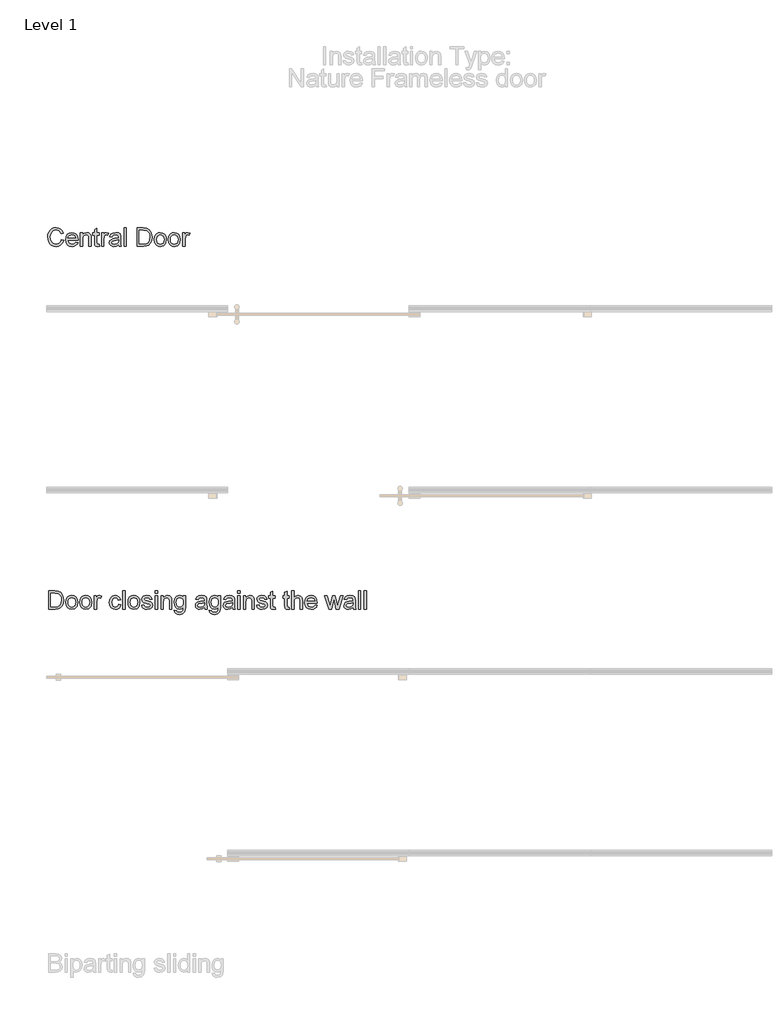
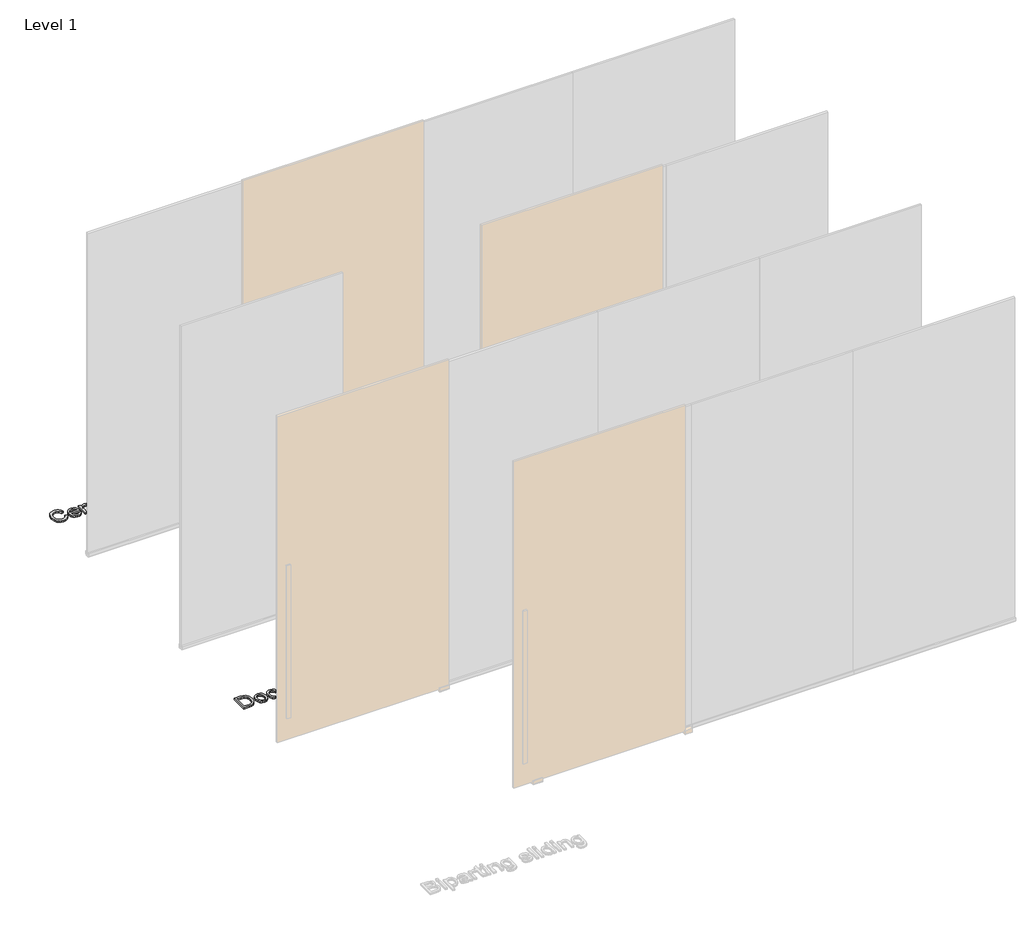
# One storey, part 2 of 3: 2 proxies.
"""IFC4 building model written with IfcOpenShell, lengths in millimetres."""

from ifc_helpers import new_model, si_unit, origin, origin_with_axes, place, context, project, spatial, polyline, outline, extrude, element, save

model = new_model("IFC4")

# Units and contexts
model_context = context("Model", 3, world=origin())
ifc_project = project(units=[si_unit("LENGTHUNIT", "METRE", prefix="MILLI")], contexts=[model_context])

# Site, building, storey
site = spatial("IfcSite", under=ifc_project)
building = spatial("IfcBuilding", under=site)
storey = spatial("IfcBuildingStorey", under=building, Name="Level 1", Elevation=0.0)

# Proxies
placement = place(None, origin())
element("IfcBuildingElementProxy", 1, Name="100mm Arial", ObjectType="100mm Arial", at=placement, inside=storey, context=model_context, shape_type="SweptSolid", body=[
    extrude(outline(polyline([(-5913.6878714, 2258.4362779), (-5901.1308326, 2255.1989163), (-5906.924974, 2240.56641), (-5916.0177907, 2229.8763723), (-5927.9616928, 2223.3372699), (-5942.3090906, 2221.157569), (-5956.8741519, 2222.8069067), (-5968.440975, 2227.7549195), (-5977.3069311, 2235.8299293), (-5983.7693914, 2246.8602578), (-5989.030104, 2273.7156434), (-5987.5432476, 2288.3634782), (-5983.0826784, 2301.0124875), (-5975.8813883, 2311.2610667), (-5966.1723693, 2318.7076114), (-5954.6576629, 2323.241757), (-5942.0393105, 2324.7531389), (-5928.2713268, 2322.7972329), (-5916.8884447, 2316.9295151), (-5908.2462835, 2307.511736), (-5902.7004624, 2294.9056463), (-5915.2575012, 2291.9135394), (-5925.5581971, 2307.3523205), (-5942.5298198, 2312.1961001), (-5962.1747183, 2306.825023), (-5973.2724918, 2292.4040488), (-5976.4730652, 2273.7401689), (-5972.6838807, 2252.1087076), (-5960.8871313, 2238.2886073), (-5943.5598894, 2233.7146078), (-5933.0783182, 2235.2719749), (-5924.3441865, 2239.9440763), (-5917.7499017, 2247.6818609), (-5913.6878714, 2258.4362779)])), origin_with_axes(), (0.0, 0.0, 1.0), 10.0),
    extrude(outline(polyline([(-5833.783902, 2244.7020167), (-5821.4721179, 2243.1323869), (-5825.9081616, 2233.8556292), (-5832.9868244, 2226.9210536), (-5842.5486905, 2222.5984402), (-5854.4343447, 2221.157569), (-5869.1680186, 2223.6438382), (-5880.5049154, 2231.1026456), (-5887.7337966, 2243.0496134), (-5890.1434237, 2259.0003636), (-5887.7092711, 2275.4876084), (-5880.4068135, 2287.8177866), (-5869.2232009, 2295.5065203), (-5855.1455832, 2298.0694315), (-5841.5063582, 2295.5126516), (-5830.6078541, 2287.842312), (-5823.4617464, 2275.5366593), (-5821.0797104, 2259.07394), (-5821.1532868, 2255.6894257), (-5877.5863849, 2255.6894257), (-5875.4128154, 2246.2900407), (-5870.3636351, 2239.3799905), (-5863.0765059, 2235.1309535), (-5854.18909, 2233.7146078), (-5841.8773059, 2236.3388327), (-5833.783902, 2244.7020167)]), holes=[polyline([(-5877.5863849, 2268.2464644), (-5833.6367492, 2268.2464644), (-5838.6644698, 2279.6262808), (-5845.9853215, 2284.0408648), (-5855.1946341, 2285.5123927), (-5870.6579407, 2280.8157659), (-5875.52318, 2275.3251272), (-5877.5863849, 2268.2464644)])]), origin_with_axes(), (0.0, 0.0, 1.0), 10.0),
    extrude(outline(polyline([(-5808.5226717, 2222.7271989), (-5808.5226717, 2296.4998017), (-5795.9656329, 2296.4998017), (-5795.9656329, 2286.1991058), (-5786.3639128, 2295.1018501), (-5773.2550511, 2298.0694315), (-5761.3969881, 2295.6781985), (-5753.3035842, 2289.3996791), (-5749.5389251, 2280.1658411), (-5748.8767375, 2268.0257352), (-5748.8767375, 2222.7271989), (-5761.4337763, 2222.7271989), (-5761.4337763, 2266.3334781), (-5762.8807788, 2277.4435143), (-5767.9943385, 2283.3173635), (-5776.61504, 2285.5123927), (-5790.2389365, 2280.582774), (-5794.5339588, 2273.4397319), (-5795.9656329, 2261.8698432), (-5795.9656329, 2222.7271989), (-5808.5226717, 2222.7271989)])), origin_with_axes(), (0.0, 0.0, 1.0), 10.0),
    extrude(outline(polyline([(-5704.9271018, 2233.199573), (-5703.357472, 2222.3593169), (-5712.7507256, 2221.157569), (-5723.2721507, 2223.2422337), (-5728.5206005, 2228.7114127), (-5730.0411794, 2242.9607086), (-5730.0411794, 2283.9427629), (-5739.4589584, 2283.9427629), (-5739.4589584, 2296.4998017), (-5730.0411794, 2296.4998017), (-5730.0411794, 2314.4279176), (-5717.4841406, 2321.8100829), (-5717.4841406, 2296.4998017), (-5704.9271018, 2296.4998017), (-5704.9271018, 2283.9427629), (-5717.4841406, 2283.9427629), (-5717.4841406, 2243.3285906), (-5716.821953, 2236.8538675), (-5714.6759747, 2234.5607364), (-5710.3962808, 2233.7146078), (-5704.9271018, 2233.199573)])), origin_with_axes(), (0.0, 0.0, 1.0), 10.0),
    extrude(outline(polyline([(-5692.3700631, 2222.7271989), (-5692.3700631, 2296.4998017), (-5681.3826541, 2296.4998017), (-5681.3826541, 2285.5859691), (-5673.5835558, 2295.6414103), (-5665.7354066, 2298.0694315), (-5653.1293169, 2294.1944078), (-5657.3231717, 2282.9372188), (-5666.1523395, 2285.5123927), (-5673.252462, 2283.0353206), (-5677.7774106, 2276.1681901), (-5679.8130243, 2261.5019612), (-5679.8130243, 2222.7271989), (-5692.3700631, 2222.7271989)])), origin_with_axes(), (0.0, 0.0, 1.0), 10.0),
    extrude(outline(polyline([(-5598.1922723, 2232.144978), (-5610.3691663, 2223.6346411), (-5623.8213846, 2221.157569), (-5634.3152185, 2222.6474911), (-5642.0560689, 2227.1172574), (-5646.8293377, 2233.9046802), (-5648.4204274, 2242.347572), (-5646.0169317, 2252.2803858), (-5639.7016241, 2259.4908729), (-5630.9092444, 2263.6111513), (-5620.0444628, 2265.4996122), (-5598.2658487, 2269.8160943), (-5598.1922723, 2272.6119974), (-5601.6503631, 2281.8826237), (-5615.531777, 2285.5123927), (-5628.2359686, 2283.0966343), (-5634.2937588, 2274.5249838), (-5646.8507975, 2276.0946137), (-5641.4184067, 2288.3573468), (-5630.4800487, 2295.5433085), (-5613.9130962, 2298.0694315), (-5598.6950444, 2295.8376141), (-5590.0988684, 2290.233545), (-5586.2483702, 2281.7109454), (-5585.6352335, 2270.7235365), (-5585.6352335, 2255.1008145), (-5584.9975714, 2233.2854122), (-5582.4959738, 2222.7271989), (-5595.0530126, 2222.7271989), (-5598.1922723, 2232.144978)]), holes=[polyline([(-5598.1922723, 2257.2590555), (-5618.4503075, 2253.4085573), (-5629.2537754, 2251.3729436), (-5634.146606, 2248.0620056), (-5635.8633886, 2243.2304888), (-5632.123255, 2236.4369346), (-5621.1481088, 2233.7146078), (-5608.4439172, 2236.7189774), (-5600.2524115, 2243.9907782), (-5598.2658487, 2253.7028629), (-5598.1922723, 2257.2590555)])]), origin_with_axes(), (0.0, 0.0, 1.0), 10.0),
    extrude(outline(polyline([(-5568.3693052, 2222.7271989), (-5568.3693052, 2323.183509), (-5555.8122665, 2323.183509), (-5555.8122665, 2222.7271989), (-5568.3693052, 2222.7271989)])), origin_with_axes(), (0.0, 0.0, 1.0), 10.0),
    extrude(outline(polyline([(-5496.1663323, 2222.7271989), (-5496.1663323, 2323.183509), (-5461.5118484, 2323.183509), (-5443.5837325, 2321.7365065), (-5428.8194017, 2314.5505449), (-5416.9245505, 2297.3827184), (-5412.9759505, 2273.4949142), (-5415.6492263, 2253.2246163), (-5422.5163569, 2238.5951756), (-5431.6888813, 2229.4839649), (-5443.6940971, 2224.4439815), (-5459.8441166, 2222.7271989), (-5496.1663323, 2222.7271989)]), holes=[polyline([(-5483.6092935, 2235.2842377), (-5461.389221, 2235.2842377), (-5445.2269387, 2237.0991222), (-5435.9072615, 2242.2249446), (-5428.2675787, 2254.6961443), (-5425.5329892, 2273.691118), (-5426.8726928, 2287.3763282), (-5430.8918036, 2297.4808203), (-5443.927089, 2308.615382), (-5461.7325776, 2310.6264703), (-5483.6092935, 2310.6264703), (-5483.6092935, 2235.2842377)])]), origin_with_axes(), (0.0, 0.0, 1.0), 10.0),
    extrude(outline(polyline([(-5400.4189117, 2259.6135003), (-5397.7027163, 2277.4005947), (-5389.5541301, 2289.9024512), (-5379.4864262, 2296.0276864), (-5367.4321595, 2298.0694315), (-5354.2405242, 2295.5831624), (-5343.7037708, 2288.1243549), (-5336.7967863, 2276.2816203), (-5334.4944582, 2260.6435699), (-5338.5656856, 2238.30087), (-5350.4237485, 2225.6579921), (-5367.4321595, 2221.157569), (-5380.7832102, 2223.6346411), (-5391.3077009, 2231.0658574), (-5398.141109, 2243.1569124), (-5400.4189117, 2259.6135003)]), holes=[polyline([(-5387.8618729, 2259.6380257), (-5386.408739, 2248.2735378), (-5382.0493374, 2240.1770682), (-5375.4887752, 2235.3302229), (-5367.4321595, 2233.7146078), (-5359.412332, 2235.33942), (-5352.8640324, 2240.2138564), (-5348.5046308, 2248.4176249), (-5347.0514969, 2260.0304332), (-5348.5138279, 2271.0638274), (-5352.9008206, 2279.0499324), (-5359.4583172, 2283.8967776), (-5367.4321595, 2285.5123927), (-5375.4887752, 2283.902909), (-5382.0493374, 2279.0744578), (-5386.408739, 2270.9963823), (-5387.8618729, 2259.6380257)])]), origin_with_axes(), (0.0, 0.0, 1.0), 10.0),
    extrude(outline(polyline([(-5323.5070492, 2259.6135003), (-5320.7908538, 2277.4005947), (-5312.6422676, 2289.9024512), (-5302.5745637, 2296.0276864), (-5290.520297, 2298.0694315), (-5277.3286618, 2295.5831624), (-5266.7919083, 2288.1243549), (-5259.8849239, 2276.2816203), (-5257.5825957, 2260.6435699), (-5261.6538231, 2238.30087), (-5273.5118861, 2225.6579921), (-5290.520297, 2221.157569), (-5303.8713477, 2223.6346411), (-5314.3958385, 2231.0658574), (-5321.2292465, 2243.1569124), (-5323.5070492, 2259.6135003)]), holes=[polyline([(-5310.9500105, 2259.6380257), (-5309.4968766, 2248.2735378), (-5305.1374749, 2240.1770682), (-5298.5769127, 2235.3302229), (-5290.520297, 2233.7146078), (-5282.5004695, 2235.33942), (-5275.95217, 2240.2138564), (-5271.5927683, 2248.4176249), (-5270.1396345, 2260.0304332), (-5271.6019654, 2271.0638274), (-5275.9889582, 2279.0499324), (-5282.5464548, 2283.8967776), (-5290.520297, 2285.5123927), (-5298.5769127, 2283.902909), (-5305.1374749, 2279.0744578), (-5309.4968766, 2270.9963823), (-5310.9500105, 2259.6380257)])]), origin_with_axes(), (0.0, 0.0, 1.0), 10.0),
    extrude(outline(polyline([(-5243.4559271, 2222.7271989), (-5243.4559271, 2296.4998017), (-5232.4685182, 2296.4998017), (-5232.4685182, 2285.5859691), (-5224.6694199, 2295.6414103), (-5216.8212706, 2298.0694315), (-5204.2151809, 2294.1944078), (-5208.4090357, 2282.9372188), (-5217.2382036, 2285.5123927), (-5224.3383261, 2283.0353206), (-5228.8632746, 2276.1681901), (-5230.8988883, 2261.5019612), (-5230.8988883, 2222.7271989), (-5243.4559271, 2222.7271989)])), origin_with_axes(), (0.0, 0.0, 1.0), 10.0),
])
element("IfcBuildingElementProxy", 2, Name="100mm Arial", ObjectType="100mm Arial", at=placement, inside=storey, context=model_context, shape_type="SweptSolid", body=[
    extrude(outline(polyline([(-5984.3212144, 222.7271989), (-5984.3212144, 323.183509), (-5949.6667305, 323.183509), (-5931.7386146, 321.7365065), (-5916.9742839, 314.5505449), (-5905.0794327, 297.3827184), (-5901.1308326, 273.4949142), (-5903.8041084, 253.2246163), (-5910.671239, 238.5951756), (-5919.8437634, 229.4839649), (-5931.8489792, 224.4439815), (-5947.9989988, 222.7271989), (-5984.3212144, 222.7271989)]), holes=[polyline([(-5971.7641757, 235.2842377), (-5949.5441032, 235.2842377), (-5933.3818208, 237.0991222), (-5924.0621436, 242.2249446), (-5916.4224609, 254.6961443), (-5913.6878714, 273.691118), (-5915.027575, 287.3763282), (-5919.0466858, 297.4808203), (-5932.0819711, 308.615382), (-5949.8874597, 310.6264703), (-5971.7641757, 310.6264703), (-5971.7641757, 235.2842377)])]), origin_with_axes(), (0.0, 0.0, 1.0), 10.0),
    extrude(outline(polyline([(-5888.5737938, 259.6135003), (-5885.8575984, 277.4005947), (-5877.7090122, 289.9024512), (-5867.6413083, 296.0276864), (-5855.5870416, 298.0694315), (-5842.3954064, 295.5831624), (-5831.8586529, 288.1243549), (-5824.9516684, 276.2816203), (-5822.6493403, 260.6435699), (-5826.7205677, 238.30087), (-5838.5786307, 225.6579921), (-5855.5870416, 221.157569), (-5868.9380923, 223.6346411), (-5879.4625831, 231.0658574), (-5886.2959911, 243.1569124), (-5888.5737938, 259.6135003)]), holes=[polyline([(-5876.0167551, 259.6380257), (-5874.5636212, 248.2735378), (-5870.2042195, 240.1770682), (-5863.6436573, 235.3302229), (-5855.5870416, 233.7146078), (-5847.5672141, 235.33942), (-5841.0189146, 240.2138564), (-5836.6595129, 248.4176249), (-5835.2063791, 260.0304332), (-5836.66871, 271.0638274), (-5841.0557028, 279.0499324), (-5847.6131993, 283.8967776), (-5855.5870416, 285.5123927), (-5863.6436573, 283.902909), (-5870.2042195, 279.0744578), (-5874.5636212, 270.9963823), (-5876.0167551, 259.6380257)])]), origin_with_axes(), (0.0, 0.0, 1.0), 10.0),
    extrude(outline(polyline([(-5811.6619314, 259.6135003), (-5808.945736, 277.4005947), (-5800.7971498, 289.9024512), (-5790.7294458, 296.0276864), (-5778.6751791, 298.0694315), (-5765.4835439, 295.5831624), (-5754.9467904, 288.1243549), (-5748.039806, 276.2816203), (-5745.7374778, 260.6435699), (-5749.8087052, 238.30087), (-5761.6667682, 225.6579921), (-5778.6751791, 221.157569), (-5792.0262299, 223.6346411), (-5802.5507206, 231.0658574), (-5809.3841287, 243.1569124), (-5811.6619314, 259.6135003)]), holes=[polyline([(-5799.1048926, 259.6380257), (-5797.6517587, 248.2735378), (-5793.2923571, 240.1770682), (-5786.7317948, 235.3302229), (-5778.6751791, 233.7146078), (-5770.6553516, 235.33942), (-5764.1070521, 240.2138564), (-5759.7476505, 248.4176249), (-5758.2945166, 260.0304332), (-5759.7568475, 271.0638274), (-5764.1438403, 279.0499324), (-5770.7013369, 283.8967776), (-5778.6751791, 285.5123927), (-5786.7317948, 283.902909), (-5793.2923571, 279.0744578), (-5797.6517587, 270.9963823), (-5799.1048926, 259.6380257)])]), origin_with_axes(), (0.0, 0.0, 1.0), 10.0),
    extrude(outline(polyline([(-5731.6108092, 222.7271989), (-5731.6108092, 296.4998017), (-5720.6234003, 296.4998017), (-5720.6234003, 285.5859691), (-5712.824302, 295.6414103), (-5704.9761528, 298.0694315), (-5692.3700631, 294.1944078), (-5696.5639178, 282.9372188), (-5705.3930857, 285.5123927), (-5712.4932082, 283.0353206), (-5717.0181567, 276.1681901), (-5719.0537704, 261.5019612), (-5719.0537704, 222.7271989), (-5731.6108092, 222.7271989)])), origin_with_axes(), (0.0, 0.0, 1.0), 10.0),
    extrude(outline(polyline([(-5598.1922723, 249.4109063), (-5585.6352335, 247.8412764), (-5589.1362439, 236.6729922), (-5595.7152002, 228.2331661), (-5604.7528345, 222.9264683), (-5615.6298789, 221.157569), (-5628.987061, 223.6254441), (-5639.431844, 231.0290692), (-5646.1732815, 243.0434821), (-5648.4204274, 259.3437201), (-5644.5821919, 280.2026293), (-5632.8835444, 293.6057966), (-5615.8015571, 298.0694315), (-5605.1912273, 296.5365899), (-5596.7084816, 291.9380649), (-5590.6231002, 284.5191113), (-5587.2048634, 274.5249838), (-5599.7619021, 272.955354), (-5605.5867004, 282.3608703), (-5615.7034553, 285.5123927), (-5623.8183189, 283.961157), (-5630.2593195, 279.3074497), (-5634.4623713, 271.299885), (-5635.8633886, 259.6870767), (-5634.4930282, 247.9179185), (-5630.3819469, 239.8827626), (-5624.0574422, 235.2566465), (-5616.0468118, 233.7146078), (-5604.2132743, 237.565106), (-5598.1922723, 249.4109063)])), origin_with_axes(), (0.0, 0.0, 1.0), 10.0),
    extrude(outline(polyline([(-5574.6478246, 222.7271989), (-5574.6478246, 323.183509), (-5562.0907858, 323.183509), (-5562.0907858, 222.7271989), (-5574.6478246, 222.7271989)])), origin_with_axes(), (0.0, 0.0, 1.0), 10.0),
    extrude(outline(polyline([(-5546.3944874, 259.6135003), (-5543.678292, 277.4005947), (-5535.5297058, 289.9024512), (-5525.4620019, 296.0276864), (-5513.4077351, 298.0694315), (-5500.2160999, 295.5831624), (-5489.6793465, 288.1243549), (-5482.772362, 276.2816203), (-5480.4700338, 260.6435699), (-5484.5412613, 238.30087), (-5496.3993242, 225.6579921), (-5513.4077351, 221.157569), (-5526.7587859, 223.6346411), (-5537.2832766, 231.0658574), (-5544.1166847, 243.1569124), (-5546.3944874, 259.6135003)]), holes=[polyline([(-5533.8374486, 259.6380257), (-5532.3843147, 248.2735378), (-5528.0249131, 240.1770682), (-5521.4643508, 235.3302229), (-5513.4077351, 233.7146078), (-5505.3879077, 235.33942), (-5498.8396081, 240.2138564), (-5494.4802065, 248.4176249), (-5493.0270726, 260.0304332), (-5494.4894035, 271.0638274), (-5498.8763963, 279.0499324), (-5505.4338929, 283.8967776), (-5513.4077351, 285.5123927), (-5521.4643508, 283.902909), (-5528.0249131, 279.0744578), (-5532.3843147, 270.9963823), (-5533.8374486, 259.6380257)])]), origin_with_axes(), (0.0, 0.0, 1.0), 10.0),
    extrude(outline(polyline([(-5471.0522548, 244.7020167), (-5458.495216, 246.2716466), (-5452.6826805, 236.9519694), (-5439.3653522, 233.7146078), (-5426.5630588, 236.6821892), (-5422.3937295, 243.6474217), (-5426.5875843, 249.2882789), (-5439.512505, 252.868997), (-5458.4216396, 259.0126263), (-5466.674459, 266.1863253), (-5469.4826249, 276.3153429), (-5467.226282, 285.6718083), (-5461.07039, 292.8209817), (-5453.0873507, 296.5365899), (-5442.2838827, 298.0694315), (-5427.0045172, 295.6046221), (-5417.2924325, 288.9336953), (-5412.9759505, 277.6642435), (-5425.5329892, 276.0946137), (-5430.2541415, 283.0230579), (-5441.3028641, 285.5123927), (-5453.3203426, 283.1334225), (-5456.9255862, 277.5906671), (-5455.4295327, 273.9363726), (-5450.7451686, 271.1649949), (-5439.929438, 268.4917191), (-5421.49855, 262.5810817), (-5412.9391623, 255.8856294), (-5409.8366908, 244.9717969), (-5413.4787225, 232.9543184), (-5423.9878849, 224.2355151), (-5439.5370305, 221.157569), (-5452.1983025, 222.6413598), (-5461.438272, 227.0927319), (-5467.6064267, 234.4626345), (-5471.0522548, 244.7020167)])), origin_with_axes(), (0.0, 0.0, 1.0), 10.0),
    extrude(outline(polyline([(-5395.7100222, 310.6264703), (-5395.7100222, 323.183509), (-5383.1529834, 323.183509), (-5383.1529834, 310.6264703), (-5395.7100222, 310.6264703)])), origin_with_axes(), (0.0, 0.0, 1.0), 10.0),
    extrude(outline(polyline([(-5395.7100222, 222.7271989), (-5395.7100222, 296.4998017), (-5383.1529834, 296.4998017), (-5383.1529834, 222.7271989), (-5395.7100222, 222.7271989)])), origin_with_axes(), (0.0, 0.0, 1.0), 10.0),
    extrude(outline(polyline([(-5364.3174252, 222.7271989), (-5364.3174252, 296.4998017), (-5351.7603865, 296.4998017), (-5351.7603865, 286.1991058), (-5342.1586664, 295.1018501), (-5329.0498046, 298.0694315), (-5317.1917417, 295.6781985), (-5309.0983378, 289.3996791), (-5305.3336787, 280.1658411), (-5304.6714911, 268.0257352), (-5304.6714911, 222.7271989), (-5317.2285299, 222.7271989), (-5317.2285299, 266.3334781), (-5318.6755324, 277.4435143), (-5323.7890921, 283.3173635), (-5332.4097935, 285.5123927), (-5346.0336901, 280.582774), (-5350.3287124, 273.4397319), (-5351.7603865, 261.8698432), (-5351.7603865, 222.7271989), (-5364.3174252, 222.7271989)])), origin_with_axes(), (0.0, 0.0, 1.0), 10.0),
    extrude(outline(polyline([(-5290.5448225, 216.4486795), (-5277.9877837, 214.8790497), (-5273.9165563, 208.2571737), (-5261.7273995, 205.4612706), (-5248.8760551, 208.6250557), (-5242.7446886, 217.5032746), (-5241.8862972, 232.144978), (-5250.7277279, 225.0816437), (-5261.5066703, 222.7271989), (-5274.4530509, 225.4679198), (-5284.1068876, 233.6900823), (-5290.1125611, 245.7443491), (-5292.1144523, 259.9813823), (-5288.5214715, 279.4423398), (-5278.1226738, 293.2133892), (-5262.119807, 298.0694315), (-5250.9178002, 295.3225793), (-5241.8862972, 287.0820226), (-5241.8862972, 296.4998017), (-5229.3292585, 296.4998017), (-5229.3292585, 232.8071656), (-5232.7628238, 208.4165893), (-5243.6398681, 197.0735611), (-5261.9726542, 192.9042318), (-5273.6559732, 194.3726941), (-5282.8560888, 198.778081), (-5288.7575291, 206.1326552), (-5290.5448225, 216.4486795)]), holes=[polyline([(-5279.5574135, 260.8397736), (-5278.2177099, 249.3220015), (-5274.1985991, 241.4033415), (-5268.1561374, 236.8140136), (-5260.7463809, 235.2842377), (-5253.3918066, 236.8048166), (-5247.318688, 241.3665533), (-5243.2443949, 249.1840457), (-5241.8862972, 260.4718916), (-5243.2842488, 271.358133), (-5247.4781036, 279.1970851), (-5253.640127, 283.9335658), (-5260.9425846, 285.5123927), (-5268.1132178, 283.9580913), (-5274.1250227, 279.295187), (-5278.1993158, 271.5727308), (-5279.5574135, 260.8397736)])]), origin_with_axes(), (0.0, 0.0, 1.0), 10.0),
    extrude(outline(polyline([(-5124.1640588, 232.144978), (-5136.3409528, 223.6346411), (-5149.7931711, 221.157569), (-5160.287005, 222.6474911), (-5168.0278553, 227.1172574), (-5172.8011242, 233.9046802), (-5174.3922139, 242.347572), (-5171.9887182, 252.2803858), (-5165.6734106, 259.4908729), (-5156.8810309, 263.6111513), (-5146.0162493, 265.4996122), (-5124.2376352, 269.8160943), (-5124.1640588, 272.6119974), (-5127.6221495, 281.8826237), (-5141.5035635, 285.5123927), (-5154.2077551, 283.0966343), (-5160.2655452, 274.5249838), (-5172.822584, 276.0946137), (-5167.3901932, 288.3573468), (-5156.4518352, 295.5433085), (-5139.8848827, 298.0694315), (-5124.6668308, 295.8376141), (-5116.0706549, 290.233545), (-5112.2201567, 281.7109454), (-5111.60702, 270.7235365), (-5111.60702, 255.1008145), (-5110.9693579, 233.2854122), (-5108.4677603, 222.7271989), (-5121.0247991, 222.7271989), (-5124.1640588, 232.144978)]), holes=[polyline([(-5124.1640588, 257.2590555), (-5144.422094, 253.4085573), (-5155.2255619, 251.3729436), (-5160.1183924, 248.0620056), (-5161.8351751, 243.2304888), (-5158.0950415, 236.4369346), (-5147.1198953, 233.7146078), (-5134.4157037, 236.7189774), (-5126.224198, 243.9907782), (-5124.2376352, 253.7028629), (-5124.1640588, 257.2590555)])]), origin_with_axes(), (0.0, 0.0, 1.0), 10.0),
    extrude(outline(polyline([(-5097.4803514, 216.4486795), (-5084.9233126, 214.8790497), (-5080.8520852, 208.2571737), (-5068.6629284, 205.4612706), (-5055.8115841, 208.6250557), (-5049.6802175, 217.5032746), (-5048.8218262, 232.144978), (-5057.6632568, 225.0816437), (-5068.4421992, 222.7271989), (-5081.3885798, 225.4679198), (-5091.0424165, 233.6900823), (-5097.0480901, 245.7443491), (-5099.0499812, 259.9813823), (-5095.4570004, 279.4423398), (-5085.0582027, 293.2133892), (-5069.0553359, 298.0694315), (-5057.8533292, 295.3225793), (-5048.8218262, 287.0820226), (-5048.8218262, 296.4998017), (-5036.2647874, 296.4998017), (-5036.2647874, 232.8071656), (-5039.6983527, 208.4165893), (-5050.575397, 197.0735611), (-5068.9081831, 192.9042318), (-5080.5915021, 194.3726941), (-5089.7916177, 198.778081), (-5095.693058, 206.1326552), (-5097.4803514, 216.4486795)]), holes=[polyline([(-5086.4929425, 260.8397736), (-5085.1532389, 249.3220015), (-5081.1341281, 241.4033415), (-5075.0916663, 236.8140136), (-5067.6819098, 235.2842377), (-5060.3273356, 236.8048166), (-5054.254217, 241.3665533), (-5050.1799239, 249.1840457), (-5048.8218262, 260.4718916), (-5050.2197778, 271.358133), (-5054.4136325, 279.1970851), (-5060.5756559, 283.9335658), (-5067.8781135, 285.5123927), (-5075.0487467, 283.9580913), (-5081.0605517, 279.295187), (-5085.1348448, 271.5727308), (-5086.4929425, 260.8397736)])]), origin_with_axes(), (0.0, 0.0, 1.0), 10.0),
    extrude(outline(polyline([(-4970.3403339, 232.144978), (-4982.5172279, 223.6346411), (-4995.9694462, 221.157569), (-5006.4632801, 222.6474911), (-5014.2041304, 227.1172574), (-5018.9773993, 233.9046802), (-5020.5684889, 242.347572), (-5018.1649932, 252.2803858), (-5011.8496857, 259.4908729), (-5003.057306, 263.6111513), (-4992.1925244, 265.4996122), (-4970.4139103, 269.8160943), (-4970.3403339, 272.6119974), (-4973.7984246, 281.8826237), (-4987.6798386, 285.5123927), (-5000.3840301, 283.0966343), (-5006.4418203, 274.5249838), (-5018.9988591, 276.0946137), (-5013.5664683, 288.3573468), (-5002.6281103, 295.5433085), (-4986.0611578, 298.0694315), (-4970.8431059, 295.8376141), (-4962.24693, 290.233545), (-4958.3964318, 281.7109454), (-4957.7832951, 270.7235365), (-4957.7832951, 255.1008145), (-4957.145633, 233.2854122), (-4954.6440354, 222.7271989), (-4967.2010742, 222.7271989), (-4970.3403339, 232.144978)]), holes=[polyline([(-4970.3403339, 257.2590555), (-4990.5983691, 253.4085573), (-5001.401837, 251.3729436), (-5006.2946675, 248.0620056), (-5008.0114502, 243.2304888), (-5004.2713166, 236.4369346), (-4993.2961704, 233.7146078), (-4980.5919788, 236.7189774), (-4972.400473, 243.9907782), (-4970.4139103, 253.7028629), (-4970.3403339, 257.2590555)])]), origin_with_axes(), (0.0, 0.0, 1.0), 10.0),
    extrude(outline(polyline([(-4940.5173668, 310.6264703), (-4940.5173668, 323.183509), (-4927.960328, 323.183509), (-4927.960328, 310.6264703), (-4940.5173668, 310.6264703)])), origin_with_axes(), (0.0, 0.0, 1.0), 10.0),
    extrude(outline(polyline([(-4940.5173668, 222.7271989), (-4940.5173668, 296.4998017), (-4927.960328, 296.4998017), (-4927.960328, 222.7271989), (-4940.5173668, 222.7271989)])), origin_with_axes(), (0.0, 0.0, 1.0), 10.0),
    extrude(outline(polyline([(-4909.1247699, 222.7271989), (-4909.1247699, 296.4998017), (-4896.5677311, 296.4998017), (-4896.5677311, 286.1991058), (-4886.966011, 295.1018501), (-4873.8571493, 298.0694315), (-4861.9990863, 295.6781985), (-4853.9056824, 289.3996791), (-4850.1410233, 280.1658411), (-4849.4788357, 268.0257352), (-4849.4788357, 222.7271989), (-4862.0358745, 222.7271989), (-4862.0358745, 266.3334781), (-4863.482877, 277.4435143), (-4868.5964367, 283.3173635), (-4877.2171382, 285.5123927), (-4890.8410347, 280.582774), (-4895.136057, 273.4397319), (-4896.5677311, 261.8698432), (-4896.5677311, 222.7271989), (-4909.1247699, 222.7271989)])), origin_with_axes(), (0.0, 0.0, 1.0), 10.0),
    extrude(outline(polyline([(-4836.9217969, 244.7020167), (-4824.3647582, 246.2716466), (-4818.5522227, 236.9519694), (-4805.2348944, 233.7146078), (-4792.432601, 236.6821892), (-4788.2632717, 243.6474217), (-4792.4571265, 249.2882789), (-4805.3820472, 252.868997), (-4824.2911818, 259.0126263), (-4832.5440012, 266.1863253), (-4835.3521671, 276.3153429), (-4833.0958242, 285.6718083), (-4826.9399321, 292.8209817), (-4818.9568928, 296.5365899), (-4808.1534249, 298.0694315), (-4792.8740594, 295.6046221), (-4783.1619747, 288.9336953), (-4778.8454926, 277.6642435), (-4791.4025314, 276.0946137), (-4796.1236837, 283.0230579), (-4807.1724063, 285.5123927), (-4819.1898848, 283.1334225), (-4822.7951283, 277.5906671), (-4821.2990749, 273.9363726), (-4816.6147108, 271.1649949), (-4805.7989802, 268.4917191), (-4787.3680922, 262.5810817), (-4778.8087044, 255.8856294), (-4775.706233, 244.9717969), (-4779.3482647, 232.9543184), (-4789.857427, 224.2355151), (-4805.4065727, 221.157569), (-4818.0678447, 222.6413598), (-4827.3078141, 227.0927319), (-4833.4759689, 234.4626345), (-4836.9217969, 244.7020167)])), origin_with_axes(), (0.0, 0.0, 1.0), 10.0),
    extrude(outline(polyline([(-4734.895857, 233.199573), (-4733.3262271, 222.3593169), (-4742.7194807, 221.157569), (-4753.2409058, 223.2422337), (-4758.4893556, 228.7114127), (-4760.0099345, 242.9607086), (-4760.0099345, 283.9427629), (-4769.4277136, 283.9427629), (-4769.4277136, 296.4998017), (-4760.0099345, 296.4998017), (-4760.0099345, 314.4279176), (-4747.4528957, 321.8100829), (-4747.4528957, 296.4998017), (-4734.895857, 296.4998017), (-4734.895857, 283.9427629), (-4747.4528957, 283.9427629), (-4747.4528957, 243.3285906), (-4746.7907081, 236.8538675), (-4744.6447298, 234.5607364), (-4740.3650359, 233.7146078), (-4734.895857, 233.199573)])), origin_with_axes(), (0.0, 0.0, 1.0), 10.0),
    extrude(outline(polyline([(-4656.4143646, 233.199573), (-4654.8447348, 222.3593169), (-4664.2379884, 221.157569), (-4674.7594135, 223.2422337), (-4680.0078633, 228.7114127), (-4681.5284422, 242.9607086), (-4681.5284422, 283.9427629), (-4690.9462213, 283.9427629), (-4690.9462213, 296.4998017), (-4681.5284422, 296.4998017), (-4681.5284422, 314.4279176), (-4668.9714034, 321.8100829), (-4668.9714034, 296.4998017), (-4656.4143646, 296.4998017), (-4656.4143646, 283.9427629), (-4668.9714034, 283.9427629), (-4668.9714034, 243.3285906), (-4668.3092158, 236.8538675), (-4666.1632375, 234.5607364), (-4661.8835436, 233.7146078), (-4656.4143646, 233.199573)])), origin_with_axes(), (0.0, 0.0, 1.0), 10.0),
    extrude(outline(polyline([(-4643.8573259, 222.7271989), (-4643.8573259, 323.183509), (-4631.3002871, 323.183509), (-4631.3002871, 286.2481567), (-4621.5084947, 295.1141128), (-4609.4480966, 298.0694315), (-4595.3459534, 294.8443327), (-4586.7865657, 285.9293257), (-4584.2113917, 269.4236868), (-4584.2113917, 222.7271989), (-4596.7684305, 222.7271989), (-4596.7684305, 268.1238371), (-4600.7660815, 281.3675889), (-4612.096847, 285.5123927), (-4622.3852801, 282.7164896), (-4629.2524107, 275.1381205), (-4631.3002871, 261.9188941), (-4631.3002871, 222.7271989), (-4643.8573259, 222.7271989)])), origin_with_axes(), (0.0, 0.0, 1.0), 10.0),
    extrude(outline(polyline([(-4515.2948313, 244.7020167), (-4502.9830472, 243.1323869), (-4507.4190909, 233.8556292), (-4514.4977536, 226.9210536), (-4524.0596198, 222.5984402), (-4535.945274, 221.157569), (-4550.6789479, 223.6438382), (-4562.0158447, 231.1026456), (-4569.2447259, 243.0496134), (-4571.654353, 259.0003636), (-4569.2202004, 275.4876084), (-4561.9177428, 287.8177866), (-4550.7341302, 295.5065203), (-4536.6565125, 298.0694315), (-4523.0172875, 295.5126516), (-4512.1187834, 287.842312), (-4504.9726756, 275.5366593), (-4502.5906397, 259.07394), (-4502.6642161, 255.6894257), (-4559.0973142, 255.6894257), (-4556.9237447, 246.2900407), (-4551.8745644, 239.3799905), (-4544.5874352, 235.1309535), (-4535.7000193, 233.7146078), (-4523.3882352, 236.3388327), (-4515.2948313, 244.7020167)]), holes=[polyline([(-4559.0973142, 268.2464644), (-4515.1476785, 268.2464644), (-4520.1753991, 279.6262808), (-4527.4962508, 284.0408648), (-4536.7055634, 285.5123927), (-4552.1688699, 280.8157659), (-4557.0341093, 275.3251272), (-4559.0973142, 268.2464644)])]), origin_with_axes(), (0.0, 0.0, 1.0), 10.0),
    extrude(outline(polyline([(-4438.5546471, 222.7271989), (-4460.9954488, 296.4998017), (-4447.9479007, 296.4998017), (-4435.2191837, 253.4576082), (-4431.4177364, 238.0801408), (-4428.3030022, 252.8935225), (-4418.1739846, 296.4998017), (-4403.2134501, 296.4998017), (-4393.1334834, 253.0161498), (-4390.3621057, 239.6007197), (-4386.3889802, 253.7519138), (-4373.6357377, 296.4998017), (-4360.5391387, 296.4998017), (-4383.1516186, 222.7271989), (-4398.3328823, 222.7271989), (-4407.9713906, 265.9901215), (-4410.7672937, 279.479128), (-4423.2017052, 222.7271989), (-4438.5546471, 222.7271989)])), origin_with_axes(), (0.0, 0.0, 1.0), 10.0),
    extrude(outline(polyline([(-4304.8172791, 232.144978), (-4316.9941732, 223.6346411), (-4330.4463915, 221.157569), (-4340.9402254, 222.6474911), (-4348.6810757, 227.1172574), (-4353.4543446, 233.9046802), (-4355.0454342, 242.347572), (-4352.6419385, 252.2803858), (-4346.3266309, 259.4908729), (-4337.5342512, 263.6111513), (-4326.6694696, 265.4996122), (-4304.8908555, 269.8160943), (-4304.8172791, 272.6119974), (-4308.2753699, 281.8826237), (-4322.1567838, 285.5123927), (-4334.8609754, 283.0966343), (-4340.9187656, 274.5249838), (-4353.4758044, 276.0946137), (-4348.0434136, 288.3573468), (-4337.1050556, 295.5433085), (-4320.5381031, 298.0694315), (-4305.3200512, 295.8376141), (-4296.7238752, 290.233545), (-4292.873377, 281.7109454), (-4292.2602404, 270.7235365), (-4292.2602404, 255.1008145), (-4291.6225782, 233.2854122), (-4289.1209807, 222.7271989), (-4301.6780194, 222.7271989), (-4304.8172791, 232.144978)]), holes=[polyline([(-4304.8172791, 257.2590555), (-4325.0753143, 253.4085573), (-4335.8787823, 251.3729436), (-4340.7716128, 248.0620056), (-4342.4883954, 243.2304888), (-4338.7482618, 236.4369346), (-4327.7731156, 233.7146078), (-4315.0689241, 236.7189774), (-4306.8774183, 243.9907782), (-4304.8908555, 253.7028629), (-4304.8172791, 257.2590555)])]), origin_with_axes(), (0.0, 0.0, 1.0), 10.0),
    extrude(outline(polyline([(-4274.994312, 222.7271989), (-4274.994312, 323.183509), (-4262.4372733, 323.183509), (-4262.4372733, 222.7271989), (-4274.994312, 222.7271989)])), origin_with_axes(), (0.0, 0.0, 1.0), 10.0),
    extrude(outline(polyline([(-4243.6017151, 222.7271989), (-4243.6017151, 323.183509), (-4231.0446764, 323.183509), (-4231.0446764, 222.7271989), (-4243.6017151, 222.7271989)])), origin_with_axes(), (0.0, 0.0, 1.0), 10.0),
])

save(model, "model.ifc")
